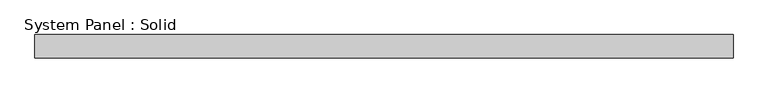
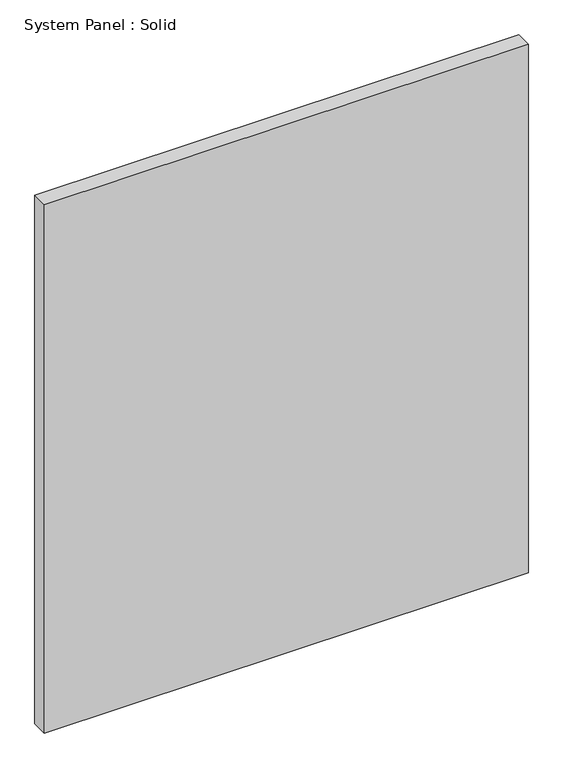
"""IFC4 building model written with IfcOpenShell, lengths in millimetres: plate geometry, System Panel : Solid."""

from ifc_helpers import new_model, si_unit, origin, origin_with_axes, place, context, project, spatial, polyline, outline, extrude, source, transform, mapped, element, save


def system_panel_solid_25a6a522(model_context):
    return source(origin(), model_context, "Body", "SweptSolid", [
        extrude(outline(polyline([(519.9999998, -2.5), (-519.9999998, -2.5), (-519.9999998, 32.5), (519.9999998, 32.5), (519.9999998, -2.5)])), origin_with_axes(), (0.0, 0.0, 1.0), 1200.0),
    ])


if __name__ == "__main__":
    model = new_model("IFC4")
    model_context = context("Model", 3, world=origin())
    ifc_project = project(units=[si_unit("LENGTHUNIT", "METRE", prefix="MILLI")], contexts=[model_context])
    site = spatial("IfcSite", under=ifc_project)
    building = spatial("IfcBuilding", under=site)
    placement = place(None, origin())
    system_panel_solid_shape = system_panel_solid_25a6a522(model_context)
    element("IfcPlate", 1, ObjectType="System Panel : Solid", at=placement, inside=building, context=model_context, shape_type="MappedRepresentation", body=[
        mapped(system_panel_solid_shape, transform((0.0, 0.0, 0.0), x_axis=(1.0, 0.0, 0.0), y_axis=(0.0, 1.0, 0.0), z_axis=(0.0, 0.0, 1.0))),
    ])
    save(model, "model.ifc")
